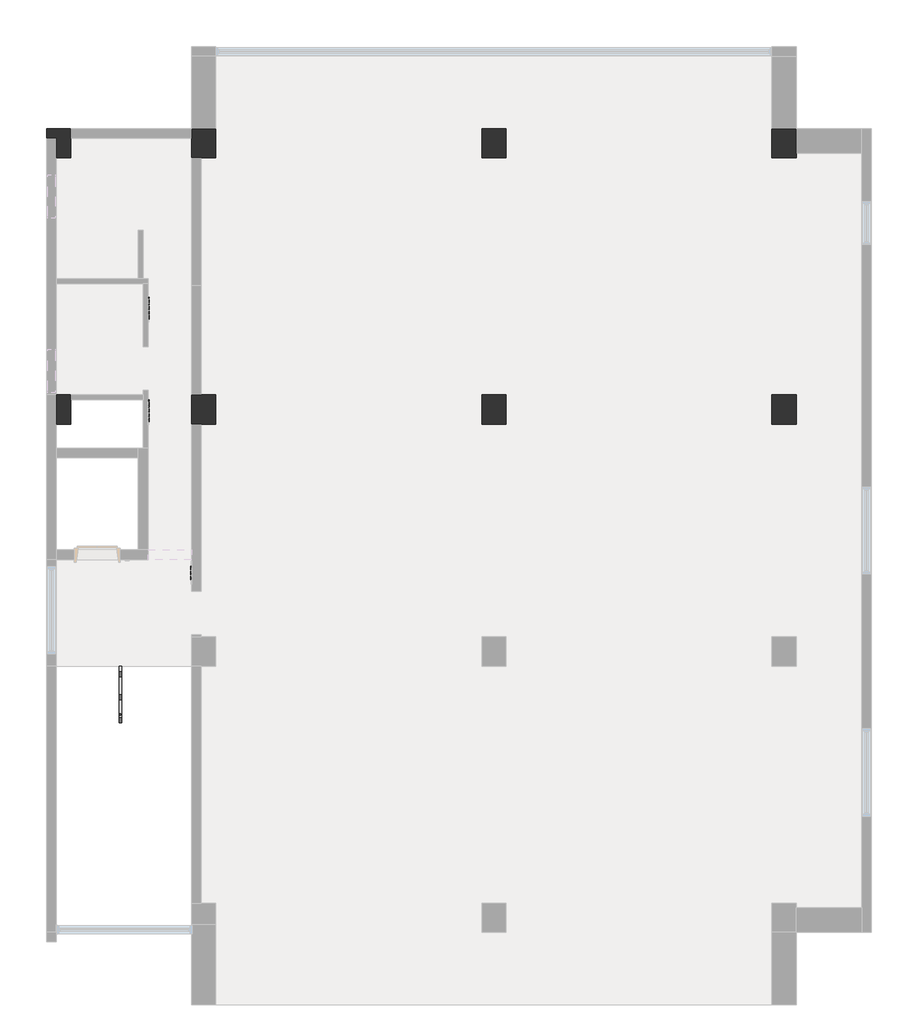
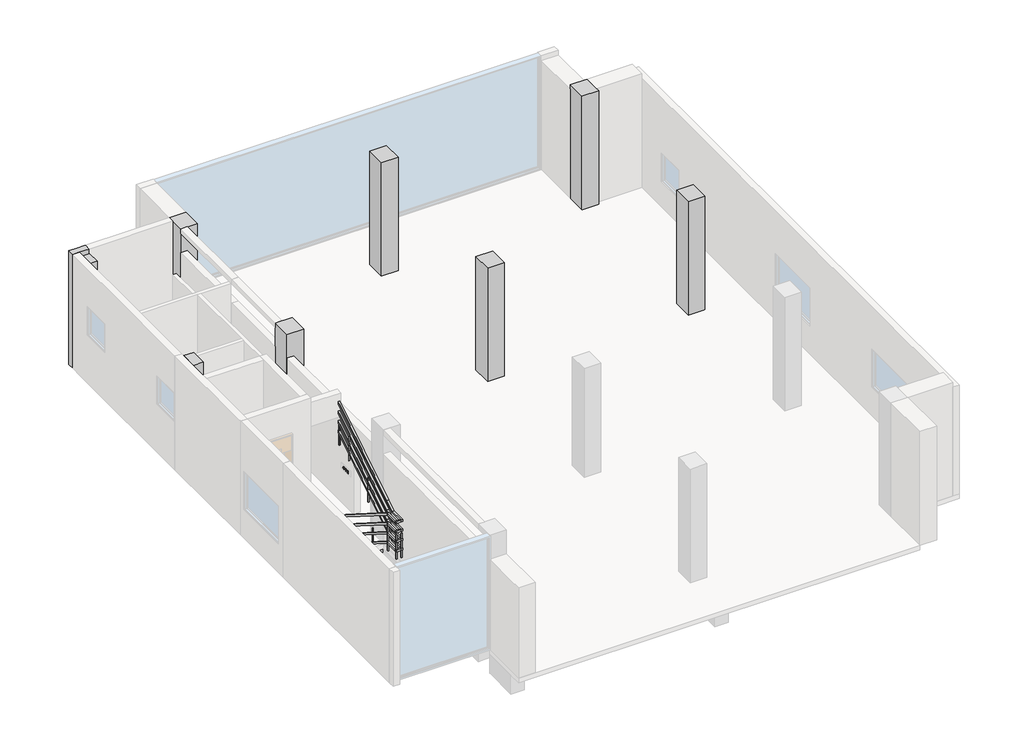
# One storey, part 2 of 2: 18 beams, 8 columns, 3 proxies, 1 railing.
"""IFC4 building model written with IfcOpenShell, lengths in millimetres."""

from ifc_helpers import new_model, si_unit, frame, origin, place, context, project, spatial, polyline, outline, extrude, faceted_brep, transform, mapped, element, save
from components import railing_68b9123f

model = new_model("IFC4")

# Units and contexts
model_context = context("Model", 3, world=origin())
ifc_project = project(units=[si_unit("LENGTHUNIT", "METRE", prefix="MILLI")], contexts=[model_context])

# Site, building, storey
site = spatial("IfcSite", under=ifc_project)
building = spatial("IfcBuilding", under=site)
storey = spatial("IfcBuildingStorey", under=building, Name="4층", Elevation=11100.0)

# Beams
placement = place(None, origin())
element("IfcBeam", 1, ObjectType="BM100-구조 보 : BM100-구조 보 400x600", at=placement, inside=storey, context=model_context, shape_type="Brep", body=[
    faceted_brep([(14750.0, 10300.0, 10950.0), (14750.0, 10700.0, 10950.0), (11963.2625647, 10700.0, 10950.0), (11663.2625647, 10700.0, 10950.0), (9250.0, 10700.0, 10950.0), (9250.0, 10300.0, 10950.0), (11663.2625647, 10300.0, 10950.0), (11963.2625647, 10300.0, 10950.0), (14750.0, 10300.0, 10350.0), (9250.0, 10300.0, 10350.0), (11663.2625647, 10300.0, 10350.0), (11963.2625647, 10300.0, 10350.0), (14750.0, 10700.0, 10350.0), (9250.0, 10700.0, 10350.0), (11663.2625647, 10700.0, 10350.0), (11963.2625647, 10700.0, 10350.0)], [[[0, 1, 2, 3, 4, 5, 6, 7]], [[8, 0, 7, 6, 5, 9, 10, 11]], [[12, 8, 11, 10, 9, 13, 14, 15]], [[1, 12, 15, 14, 13, 4, 3, 2]], [[1, 0, 8, 12]], [[5, 4, 13, 9]]]),
])
element("IfcBeam", 2, ObjectType="BM100-구조 보 : BM100-구조 보 400x600", at=placement, inside=storey, context=model_context, shape_type="Brep", body=[
    faceted_brep([(9250.0, 16300.0, 10950.0), (9250.0, 15900.0, 10950.0), (11663.2625647, 15900.0, 10950.0), (11963.2625647, 15900.0, 10950.0), (14750.0, 15900.0, 10950.0), (14750.0, 16300.0, 10950.0), (9250.0, 15900.0, 10350.0), (11663.2625647, 15900.0, 10350.0), (11963.2625647, 15900.0, 10350.0), (14750.0, 15900.0, 10350.0), (9250.0, 16300.0, 10350.0), (14750.0, 16300.0, 10350.0)], [[[0, 1, 2, 3, 4, 5]], [[1, 6, 7, 8, 9, 4, 3, 2]], [[6, 10, 11, 9, 8, 7]], [[10, 0, 5, 11]], [[1, 0, 10, 6]], [[5, 4, 9, 11]]]),
])
element("IfcBeam", 3, ObjectType="BM100-구조 보 : BM100-구조 보 400x600", at=placement, inside=storey, context=model_context, shape_type="SweptSolid", body=[
    extrude(outline(polyline([(15250.0, 5800.0), (14850.0, 5800.0), (14850.0, 10200.0), (15250.0, 10200.0), (15250.0, 5800.0)])), frame((0.0, 0.0, 10350.0), z_axis=(0.0, 0.0, 1.0), x_axis=(1.0, 0.0, 0.0)), (0.0, 0.0, 1.0), 600.0),
])
element("IfcBeam", 4, ObjectType="BM100-구조 보 : BM100-구조 보 300x600", at=placement, inside=storey, context=model_context, shape_type="SweptSolid", body=[
    extrude(outline(polyline([(11963.2625647, 5700.0), (11663.2625647, 5700.0), (11663.2625647, 10300.0), (11963.2625647, 10300.0), (11963.2625647, 5700.0)])), frame((0.0, 0.0, 10350.0), z_axis=(0.0, 0.0, 1.0), x_axis=(1.0, 0.0, 0.0)), (0.0, 0.0, 1.0), 600.0),
])
element("IfcBeam", 5, ObjectType="BM100-구조 보 : BM100-구조 보 300x600", at=placement, inside=storey, context=model_context, shape_type="SweptSolid", body=[
    extrude(outline(polyline([(11963.2625647, 10700.0), (11663.2625647, 10700.0), (11663.2625647, 15900.0), (11963.2625647, 15900.0), (11963.2625647, 10700.0)])), frame((0.0, 0.0, 10350.0), z_axis=(0.0, 0.0, 1.0), x_axis=(1.0, 0.0, 0.0)), (0.0, 0.0, 1.0), 600.0),
])
element("IfcBeam", 6, ObjectType="BM100-구조 보 : BM100-구조 보 400x600", at=placement, inside=storey, context=model_context, shape_type="SweptSolid", body=[
    extrude(outline(polyline([(9250.0, 5800.0), (8850.0, 5800.0), (8850.0, 10200.0), (9250.0, 10200.0), (9250.0, 5800.0)])), frame((0.0, 0.0, 10350.0), z_axis=(0.0, 0.0, 1.0), x_axis=(1.0, 0.0, 0.0)), (0.0, 0.0, 1.0), 600.0),
])
element("IfcBeam", 7, ObjectType="BM100-구조 보 : BM100-구조 보 400x600", at=placement, inside=storey, context=model_context, shape_type="SweptSolid", body=[
    extrude(outline(polyline([(9250.0, 10800.0), (8850.0, 10800.0), (8850.0, 15700.0), (9250.0, 15700.0), (9250.0, 10800.0)])), frame((0.0, 0.0, 10350.0), z_axis=(0.0, 0.0, 1.0), x_axis=(1.0, 0.0, 0.0)), (0.0, 0.0, 1.0), 600.0),
])
element("IfcBeam", 8, ObjectType="BM100-구조 보 : BM100-구조 보 400x600", at=placement, inside=storey, context=model_context, shape_type="Brep", body=[
    faceted_brep([(2750.0, 5800.0, 10950.0), (2950.0, 5800.0, 10950.0), (3150.0, 5800.0, 10950.0), (3150.0, 10200.0, 10950.0), (2950.0, 10200.0, 10950.0), (2750.0, 10200.0, 10950.0), (2750.0, 7600.0, 10950.0), (2750.0, 7400.0, 10950.0), (3150.0, 5800.0, 10350.0), (3150.0, 10200.0, 10350.0), (2950.0, 5800.0, 10350.0), (2750.0, 5800.0, 10350.0), (2750.0, 10200.0, 10350.0), (2950.0, 10200.0, 10350.0)], [[[0, 1, 2, 3, 4, 5, 6, 7]], [[2, 8, 9, 3]], [[8, 10, 11, 12, 13, 9]], [[11, 0, 7, 6, 5, 12]], [[2, 1, 0, 11, 10, 8]], [[5, 4, 3, 9, 13, 12]]]),
])
element("IfcBeam", 9, ObjectType="BM100-구조 보 : BM100-구조 보 400x600", at=placement, inside=storey, context=model_context, shape_type="Brep", body=[
    faceted_brep([(2750.0, 10800.0, 10950.0), (2950.0, 10800.0, 10950.0), (3150.0, 10800.0, 10950.0), (3150.0, 15700.0, 10950.0), (2950.0, 15700.0, 10950.0), (2750.0, 15700.0, 10950.0), (2750.0, 13060.0, 10950.0), (3150.0, 10800.0, 10350.0), (3150.0, 15700.0, 10350.0), (2950.0, 10800.0, 10350.0), (2750.0, 10800.0, 10350.0), (2750.0, 13060.0, 10350.0), (2750.0, 15700.0, 10350.0), (2950.0, 15700.0, 10350.0)], [[[0, 1, 2, 3, 4, 5, 6]], [[2, 7, 8, 3]], [[7, 9, 10, 11, 12, 13, 8]], [[10, 0, 6, 5, 12, 11]], [[2, 1, 0, 10, 9, 7]], [[5, 4, 3, 8, 13, 12]]]),
])
element("IfcBeam", 10, ObjectType="BM100-구조 보 : BM100-구조 보 400x600", at=placement, inside=storey, context=model_context, shape_type="Brep", body=[
    faceted_brep([(8750.0, 10300.0, 10950.0), (8750.0, 10700.0, 10950.0), (5950.2625647, 10700.0, 10950.0), (5650.2625647, 10700.0, 10950.0), (3250.0, 10700.0, 10950.0), (3250.0, 10300.0, 10950.0), (5663.2625647, 10300.0, 10950.0), (5963.2625647, 10300.0, 10950.0), (8750.0, 10300.0, 10350.0), (3250.0, 10300.0, 10350.0), (5663.2625647, 10300.0, 10350.0), (5963.2625647, 10300.0, 10350.0), (8750.0, 10700.0, 10350.0), (3250.0, 10700.0, 10350.0), (5650.2625647, 10700.0, 10350.0), (5950.2625647, 10700.0, 10350.0)], [[[0, 1, 2, 3, 4, 5, 6, 7]], [[8, 0, 7, 6, 5, 9, 10, 11]], [[12, 8, 11, 10, 9, 13, 14, 15]], [[1, 12, 15, 14, 13, 4, 3, 2]], [[1, 0, 8, 12]], [[5, 4, 13, 9]]]),
])
element("IfcBeam", 11, ObjectType="BM100-구조 보 : BM100-구조 보 300x600", at=placement, inside=storey, context=model_context, shape_type="SweptSolid", body=[
    extrude(outline(polyline([(5963.2625647, 5700.0), (5663.2625647, 5700.0), (5663.2625647, 10300.0), (5963.2625647, 10300.0), (5963.2625647, 5700.0)])), frame((0.0, 0.0, 10350.0), z_axis=(0.0, 0.0, 1.0), x_axis=(1.0, 0.0, 0.0)), (0.0, 0.0, 1.0), 600.0),
])
element("IfcBeam", 12, ObjectType="BM100-구조 보 : BM100-구조 보 300x600", at=placement, inside=storey, context=model_context, shape_type="SweptSolid", body=[
    extrude(outline(polyline([(5950.2625647, 10700.0), (5650.2625647, 10700.0), (5650.2625647, 15900.0), (5950.2625647, 15900.0), (5950.2625647, 10700.0)])), frame((0.0, 0.0, 10350.0), z_axis=(0.0, 0.0, 1.0), x_axis=(1.0, 0.0, 0.0)), (0.0, 0.0, 1.0), 600.0),
])
element("IfcBeam", 13, ObjectType="BM100-구조 보 : BM100-구조 보 400x600", at=placement, inside=storey, context=model_context, shape_type="Brep", body=[
    faceted_brep([(3250.0, 16300.0, 10950.0), (3250.0, 16100.0, 10950.0), (3250.0, 15900.0, 10950.0), (5650.2625647, 15900.0, 10950.0), (5950.2625647, 15900.0, 10950.0), (8750.0, 15900.0, 10950.0), (8750.0, 16300.0, 10950.0), (3250.0, 15900.0, 10350.0), (5650.2625647, 15900.0, 10350.0), (5950.2625647, 15900.0, 10350.0), (8750.0, 15900.0, 10350.0), (3250.0, 16300.0, 10350.0), (8750.0, 16300.0, 10350.0)], [[[0, 1, 2, 3, 4, 5, 6]], [[2, 7, 8, 9, 10, 5, 4, 3]], [[7, 11, 12, 10, 9, 8]], [[11, 0, 6, 12]], [[0, 11, 7, 2, 1]], [[6, 5, 10, 12]]]),
])
element("IfcBeam", 14, ObjectType="BM100-구조 보 : BM100-구조 보 400x600", at=placement, inside=storey, context=model_context, shape_type="SweptSolid", body=[
    extrude(outline(polyline([(14850.0, 15700.0), (15250.0, 15700.0), (15250.0, 10800.0), (14850.0, 10800.0), (14850.0, 15700.0)])), frame((0.0, 0.0, 10350.0), z_axis=(0.0, 0.0, 1.0), x_axis=(1.0, 0.0, 0.0)), (0.0, 0.0, 1.0), 600.0),
])
element("IfcBeam", 15, ObjectType="BM100-구조 보 : BM100-구조 보 400x600", at=placement, inside=storey, context=model_context, shape_type="SweptSolid", body=[
    extrude(outline(polyline([(15250.0, 10300.0), (15250.0, 10700.0), (16600.0, 10700.0), (16600.0, 10300.0), (15250.0, 10300.0)])), frame((0.0, 0.0, 10350.0), z_axis=(0.0, 0.0, 1.0), x_axis=(1.0, 0.0, 0.0)), (0.0, 0.0, 1.0), 600.0),
])
element("IfcBeam", 16, ObjectType="BM100-구조 보 : BM100-구조 보 400x600", at=placement, inside=storey, context=model_context, shape_type="Brep", body=[
    faceted_brep([(8850.0, 17800.0, 10950.0), (8850.0, 17400.0, 10950.0), (9250.0, 17400.0, 10950.0), (14750.0, 17400.0, 10950.0), (14750.0, 17800.0, 10950.0), (8850.0, 17400.0, 10350.0), (9250.0, 17400.0, 10350.0), (14750.0, 17400.0, 10350.0), (8850.0, 17800.0, 10350.0), (14750.0, 17800.0, 10350.0)], [[[0, 1, 2, 3, 4]], [[1, 5, 6, 7, 3, 2]], [[5, 8, 9, 7, 6]], [[8, 0, 4, 9]], [[1, 0, 8, 5]], [[4, 3, 7, 9]]]),
])
element("IfcBeam", 17, ObjectType="BM100-구조 보 : BM100-구조 보 400x600", at=placement, inside=storey, context=model_context, shape_type="SweptSolid", body=[
    extrude(outline(polyline([(9250.0, 16300.0), (8850.0, 16300.0), (8850.0, 17400.0), (9250.0, 17400.0), (9250.0, 16300.0)])), frame((0.0, 0.0, 10350.0), z_axis=(0.0, 0.0, 1.0), x_axis=(1.0, 0.0, 0.0)), (0.0, 0.0, 1.0), 600.0),
])
element("IfcBeam", 18, ObjectType="BM100-구조 보 : BM100-구조 보 400x600", at=placement, inside=storey, context=model_context, shape_type="SweptSolid", body=[
    extrude(outline(polyline([(8850.0, 17800.0), (8850.0, 17400.0), (3250.0, 17400.0), (3250.0, 17800.0), (8850.0, 17800.0)])), frame((0.0, 0.0, 10350.0), z_axis=(0.0, 0.0, 1.0), x_axis=(1.0, 0.0, 0.0)), (0.0, 0.0, 1.0), 600.0),
])

# Proxies
element("IfcBuildingElementProxy", 19, Name="600 mm Arial", ObjectType="600 mm Arial", at=placement, inside=storey, context=model_context, shape_type="SweptSolid", body=[
    extrude(outline(polyline([(10297.787199, 12317.7990058), (10300.6391665, 12317.0436198), (10301.7028733, 12315.3324394), (10300.7933269, 12313.0508654), (10298.1726, 12311.8792463), (10253.0652656, 12311.8792463), (10249.42708, 12315.3324394), (10253.0652656, 12317.7990058), (10297.787199, 12317.7990058)])), frame((1860.0, 0.0, 0.0), z_axis=(1.0, 0.0, 0.0), x_axis=(0.0, 1.0, 0.0)), (0.0, 0.0, 1.0), 10.0),
    extrude(outline(polyline([(10288.1213416, 12328.6518983), (10291.8366074, 12326.1853318), (10288.3063341, 12322.7321388), (10261.9449049, 12322.7321388), (10258.3067193, 12326.1853318), (10261.9449049, 12328.6518983), (10288.1213416, 12328.6518983)])), frame((1860.0, 0.0, 0.0), z_axis=(1.0, 0.0, 0.0), x_axis=(0.0, 1.0, 0.0)), (0.0, 0.0, 1.0), 10.0),
    extrude(outline(polyline([(10275.711429, 12306.9461133), (10292.0524319, 12302.2133889), (10297.771783, 12291.7921456), (10292.067848, 12280.4151077), (10279.0258777, 12276.3955749), (10279.0258777, 12263.5345434), (10288.8767276, 12264.8140747), (10301.0399835, 12268.4676763), (10305.6031315, 12267.0802327), (10303.5836302, 12262.640413), (10278.9025494, 12257.6147838), (10248.8104384, 12256.6281572), (10245.6501501, 12257.6456159), (10244.4939471, 12260.1275984), (10245.4497416, 12261.869611), (10248.3325412, 12262.5479168), (10258.3837995, 12262.640413), (10271.132865, 12262.9949819), (10271.132865, 12276.7526908), (10258.9696091, 12280.4151077), (10253.3735864, 12291.7921456), (10258.9696091, 12302.2133889), (10275.711429, 12306.9461133)]), holes=[polyline([(10275.711429, 12301.0263538), (10264.5347997, 12298.0356419), (10261.2665991, 12291.7921456), (10264.5502157, 12284.5774386), (10275.711429, 12281.293822), (10286.5643215, 12284.5774386), (10289.8787702, 12291.7921456), (10286.5951536, 12298.051058), (10275.711429, 12301.0263538)])]), frame((1860.0, 0.0, 0.0), z_axis=(1.0, 0.0, 0.0), x_axis=(0.0, 1.0, 0.0)), (0.0, 0.0, 1.0), 10.0),
    extrude(outline(polyline([(10315.5310616, 12293.1333411), (10324.7036057, 12293.1333411), (10327.3243325, 12292.4242032), (10328.3417912, 12290.7130227), (10327.5709892, 12288.3852006), (10325.1815029, 12287.2135815), (10315.5310616, 12287.2135815), (10315.5310616, 12254.4236634), (10314.159034, 12251.6796082), (10311.5383071, 12250.7083977), (10308.8713321, 12251.7104403), (10307.6380489, 12254.5624078), (10307.6380489, 12328.9448031), (10308.8867481, 12330.9488884), (10311.5383071, 12331.6117781), (10314.1282019, 12330.9334723), (10315.5310616, 12329.0218833), (10315.5310616, 12293.1333411)])), frame((1860.0, 0.0, 0.0), z_axis=(1.0, 0.0, 0.0), x_axis=(0.0, 1.0, 0.0)), (0.0, 0.0, 1.0), 10.0),
    extrude(outline(polyline([(10414.1937206, 12308.9193665), (10423.3662647, 12308.9193665), (10425.9869916, 12308.2410607), (10427.0044502, 12306.4990482), (10426.2182322, 12304.1249779), (10423.7516657, 12302.999607), (10414.1937206, 12302.999607), (10414.1937206, 12285.0861679), (10412.821693, 12282.1879523), (10410.2009661, 12281.293822), (10407.5339911, 12282.1879523), (10406.3007079, 12285.1478321), (10406.3007079, 12329.0372993), (10410.2009661, 12331.6117781), (10414.1937206, 12329.1760437), (10414.1937206, 12308.9193665)])), frame((1860.0, 0.0, 0.0), z_axis=(1.0, 0.0, 0.0), x_axis=(0.0, 1.0, 0.0)), (0.0, 0.0, 1.0), 10.0),
    extrude(outline(polyline([(10383.6545444, 12280.3071954), (10407.2873345, 12276.0832003), (10413.207094, 12271.4699502), (10415.1803472, 12265.8623655), (10413.207094, 12259.7460514), (10407.2873345, 12255.024889), (10383.6545444, 12250.7083977), (10359.9138421, 12255.024889), (10354.0056446, 12259.7383434), (10352.0362454, 12265.8623655), (10354.0056446, 12271.4699502), (10359.9138421, 12276.0832003), (10383.6545444, 12280.3071954)]), holes=[polyline([(10383.6545444, 12274.3874359), (10365.1707119, 12271.8437892), (10359.9292581, 12265.9086136), (10365.1707119, 12259.3259643), (10383.6545444, 12256.6281572), (10401.9379684, 12259.3259643), (10407.2873345, 12265.9086136), (10401.9379684, 12271.8437892), (10383.6545444, 12274.3874359)])]), frame((1860.0, 0.0, 0.0), z_axis=(1.0, 0.0, 0.0), x_axis=(0.0, 1.0, 0.0)), (0.0, 0.0, 1.0), 10.0),
    extrude(outline(polyline([(10395.5865598, 12329.6385249), (10398.9626726, 12327.2182066), (10395.5865598, 12323.7187654), (10377.6885368, 12323.7187654), (10377.6885368, 12321.7609282), (10379.3804472, 12312.3802676), (10384.4561785, 12304.6182912), (10399.1784972, 12295.1065943), (10401.382991, 12293.6112383), (10401.1363343, 12291.1138398), (10398.8855924, 12289.2484989), (10395.5248956, 12289.4643234), (10381.4038025, 12298.1898023), (10373.603286, 12309.3201836), (10366.2035866, 12297.6348249), (10351.1883632, 12288.2156242), (10348.2593155, 12288.3543685), (10346.2398142, 12290.2351255), (10345.9931576, 12292.6091957), (10348.1976513, 12294.1199677), (10363.4595314, 12304.2791383), (10368.2115259, 12312.0642388), (10369.795524, 12321.5451037), (10369.795524, 12323.7187654), (10351.8975011, 12323.7187654), (10348.3363957, 12327.2182066), (10351.9899973, 12329.6385249), (10395.5865598, 12329.6385249)])), frame((1860.0, 0.0, 0.0), z_axis=(1.0, 0.0, 0.0), x_axis=(0.0, 1.0, 0.0)), (0.0, 0.0, 1.0), 10.0),
    extrude(outline(polyline([(10515.8162594, 12292.8404363), (10514.4442318, 12290.065549), (10511.869753, 12289.1868347), (10509.1565299, 12290.0809651), (10507.9232467, 12292.8404363), (10507.9232467, 12328.9448031), (10509.1565299, 12330.9488884), (10511.869753, 12331.6117781), (10514.4288158, 12330.9488884), (10515.8162594, 12329.0527154), (10515.8162594, 12292.8404363)])), frame((1860.0, 0.0, 0.0), z_axis=(1.0, 0.0, 0.0), x_axis=(0.0, 1.0, 0.0)), (0.0, 0.0, 1.0), 10.0),
    extrude(outline(polyline([(10506.150402, 12285.2403284), (10513.2571967, 12283.3441554), (10515.8162594, 12278.1181177), (10515.8162594, 12274.0328669), (10513.365109, 12268.5293405), (10507.1986928, 12266.4944231), (10462.0296942, 12266.4944231), (10459.9639448, 12266.0011098), (10459.5785438, 12264.2590973), (10459.5785438, 12260.3280069), (10460.0256089, 12258.2160094), (10461.9063659, 12257.6147838), (10513.8738383, 12257.6147838), (10517.7740965, 12255.1944655), (10516.8799662, 12252.8049792), (10514.2438233, 12251.6950243), (10459.9947769, 12251.6950243), (10454.0904334, 12253.8378539), (10451.685531, 12259.6805332), (10451.685531, 12265.4153003), (10453.9979371, 12270.5334257), (10459.8406165, 12272.4141827), (10505.2871038, 12272.4141827), (10507.3528532, 12272.9691601), (10507.9232467, 12274.834501), (10507.9232467, 12277.3318996), (10507.4607655, 12278.8580876), (10505.2100236, 12279.3205688), (10455.5241251, 12279.3205688), (10451.685531, 12282.7891779), (10455.5395412, 12285.2403284), (10506.150402, 12285.2403284)])), frame((1860.0, 0.0, 0.0), z_axis=(1.0, 0.0, 0.0), x_axis=(0.0, 1.0, 0.0)), (0.0, 0.0, 1.0), 10.0),
    extrude(outline(polyline([(10465.4983033, 12326.7865574), (10466.7624186, 12328.9756352), (10469.3985615, 12329.6385249), (10472.0038724, 12328.9756352), (10473.391316, 12326.7865574), (10472.63593, 12321.0826225), (10470.9555816, 12315.6407602), (10484.5062812, 12306.4682161), (10495.1433491, 12294.3666243), (10495.8987351, 12292.2083786), (10494.4342113, 12289.7263961), (10491.7364042, 12289.0789224), (10488.9461009, 12290.7901029), (10479.3573237, 12302.0283964), (10468.5506793, 12310.1526498), (10461.1201478, 12299.2380931), (10449.1573004, 12288.0306317), (10446.1049244, 12287.2598297), (10443.8233504, 12288.7089375), (10443.1758767, 12291.206336), (10445.1491299, 12293.117925), (10460.7501628, 12310.8463716), (10465.4983033, 12326.7865574)])), frame((1860.0, 0.0, 0.0), z_axis=(1.0, 0.0, 0.0), x_axis=(0.0, 1.0, 0.0)), (0.0, 0.0, 1.0), 10.0),
    extrude(outline(polyline([(10556.6225185, 12335.2345476), (10559.3665737, 12336.4678308), (10562.0797969, 12335.9899336), (10563.7601453, 12334.2787531), (10563.1435037, 12331.3497054), (10553.4313982, 12312.4804719), (10550.3481901, 12291.6379851), (10553.1539094, 12270.2713531), (10562.9893433, 12251.957097), (10564.0684661, 12249.290122), (10562.6810224, 12246.5460668), (10559.7673908, 12245.5286081), (10556.6995987, 12247.2089565), (10545.5846336, 12267.8818668), (10542.4551773, 12291.6379851), (10545.7850421, 12314.052908), (10556.6225185, 12335.2345476)])), frame((1860.0, 0.0, 0.0), z_axis=(1.0, 0.0, 0.0), x_axis=(0.0, 1.0, 0.0)), (0.0, 0.0, 1.0), 10.0),
    extrude(outline(polyline([(10604.7513969, 12328.6518983), (10614.5598527, 12326.0350255), (10621.7552895, 12318.1844068), (10625.3973917, 12308.5766763), (10626.4263498, 12310.2143139), (10629.4324777, 12310.8926197), (10644.0777161, 12310.8926197), (10644.0777161, 12328.8060587), (10645.2955833, 12330.8563921), (10648.0242225, 12331.6117781), (10650.6141173, 12330.9488884), (10651.9707289, 12328.8368908), (10651.9707289, 12254.6549041), (10650.6449494, 12251.7258564), (10648.0242225, 12250.7083977), (10645.2647513, 12251.7412724), (10644.0777161, 12254.6857361), (10644.0777161, 12278.3339422), (10629.2629013, 12278.3339422), (10625.8552008, 12280.4777179), (10621.7552895, 12269.6547114), (10614.4211083, 12261.3647357), (10604.7513969, 12258.6014104), (10594.9082551, 12261.3647357), (10587.4545995, 12269.6547114), (10583.3038306, 12280.6270782), (10581.920241, 12294.0274714), (10583.3038306, 12307.2197481), (10587.4545995, 12318.1844068), (10594.7695107, 12326.0350255), (10604.7513969, 12328.6518983)]), holes=[polyline([(10626.2062694, 12283.4271544), (10629.2629013, 12284.2537018), (10644.0777161, 12284.2537018), (10644.0777161, 12304.9728602), (10629.5249739, 12304.9728602), (10625.9314286, 12307.0731936), (10627.3050641, 12294.0274714), (10626.2062694, 12283.4271544)]), polyline([(10604.7051488, 12322.7321388), (10598.4115503, 12320.6432653), (10593.6210157, 12314.3766448), (10589.8132537, 12294.0737195), (10593.6210157, 12273.5241376), (10598.5425866, 12266.7719119), (10604.7051488, 12264.52117), (10610.7174046, 12266.7719119), (10615.5888734, 12273.5241376), (10619.4120514, 12294.0737195), (10615.5888734, 12314.3766448), (10610.8484409, 12320.6432653), (10604.7051488, 12322.7321388)])]), frame((1860.0, 0.0, 0.0), z_axis=(1.0, 0.0, 0.0), x_axis=(0.0, 1.0, 0.0)), (0.0, 0.0, 1.0), 10.0),
    extrude(outline(polyline([(10683.1265467, 12335.2345476), (10693.902359, 12314.052908), (10697.355552, 12291.6379851), (10694.1027675, 12267.8818668), (10683.0802985, 12247.2089565), (10679.9200102, 12245.5286081), (10676.9909626, 12246.5460668), (10675.618935, 12249.290122), (10676.8059701, 12251.957097), (10686.5334916, 12270.2713531), (10689.4625393, 12291.6379851), (10686.2560029, 12312.4804719), (10676.6363936, 12331.3342894), (10675.9118397, 12334.2787531), (10677.6076042, 12335.9899336), (10680.2899952, 12336.4678308), (10683.1265467, 12335.2345476)])), frame((1860.0, 0.0, 0.0), z_axis=(1.0, 0.0, 0.0), x_axis=(0.0, 1.0, 0.0)), (0.0, 0.0, 1.0), 10.0),
])
element("IfcBuildingElementProxy", 20, Name="600 mm Arial", ObjectType="600 mm Arial", at=placement, inside=storey, context=model_context, shape_type="SweptSolid", body=[
    extrude(outline(polyline([(12417.787199, 12317.7990058), (12420.6391665, 12317.0436198), (12421.7028733, 12315.3324394), (12420.7933269, 12313.0508654), (12418.1726, 12311.8792463), (12373.0652656, 12311.8792463), (12369.42708, 12315.3324394), (12373.0652656, 12317.7990058), (12417.787199, 12317.7990058)])), frame((1860.0, 0.0, 0.0), z_axis=(1.0, 0.0, 0.0), x_axis=(0.0, 1.0, 0.0)), (0.0, 0.0, 1.0), 10.0),
    extrude(outline(polyline([(12408.1213416, 12328.6518983), (12411.8366074, 12326.1853318), (12408.3063341, 12322.7321388), (12381.9449049, 12322.7321388), (12378.3067193, 12326.1853318), (12381.9449049, 12328.6518983), (12408.1213416, 12328.6518983)])), frame((1860.0, 0.0, 0.0), z_axis=(1.0, 0.0, 0.0), x_axis=(0.0, 1.0, 0.0)), (0.0, 0.0, 1.0), 10.0),
    extrude(outline(polyline([(12395.711429, 12306.9461133), (12412.0524319, 12302.2133889), (12417.771783, 12291.7921456), (12412.067848, 12280.4151077), (12399.0258777, 12276.3955749), (12399.0258777, 12263.5345434), (12408.8767276, 12264.8140747), (12421.0399835, 12268.4676763), (12425.6031315, 12267.0802327), (12423.5836302, 12262.640413), (12398.9025494, 12257.6147838), (12368.8104384, 12256.6281572), (12365.6501501, 12257.6456159), (12364.4939471, 12260.1275984), (12365.4497416, 12261.869611), (12368.3325412, 12262.5479168), (12378.3837995, 12262.640413), (12391.132865, 12262.9949819), (12391.132865, 12276.7526908), (12378.9696091, 12280.4151077), (12373.3735864, 12291.7921456), (12378.9696091, 12302.2133889), (12395.711429, 12306.9461133)]), holes=[polyline([(12395.711429, 12301.0263538), (12384.5347997, 12298.0356419), (12381.2665991, 12291.7921456), (12384.5502157, 12284.5774386), (12395.711429, 12281.293822), (12406.5643215, 12284.5774386), (12409.8787702, 12291.7921456), (12406.5951536, 12298.051058), (12395.711429, 12301.0263538)])]), frame((1860.0, 0.0, 0.0), z_axis=(1.0, 0.0, 0.0), x_axis=(0.0, 1.0, 0.0)), (0.0, 0.0, 1.0), 10.0),
    extrude(outline(polyline([(12435.5310616, 12293.1333411), (12444.7036057, 12293.1333411), (12447.3243325, 12292.4242032), (12448.3417912, 12290.7130227), (12447.5709892, 12288.3852006), (12445.1815029, 12287.2135815), (12435.5310616, 12287.2135815), (12435.5310616, 12254.4236634), (12434.159034, 12251.6796082), (12431.5383071, 12250.7083977), (12428.8713321, 12251.7104403), (12427.6380489, 12254.5624078), (12427.6380489, 12328.9448031), (12428.8867481, 12330.9488884), (12431.5383071, 12331.6117781), (12434.1282019, 12330.9334723), (12435.5310616, 12329.0218833), (12435.5310616, 12293.1333411)])), frame((1860.0, 0.0, 0.0), z_axis=(1.0, 0.0, 0.0), x_axis=(0.0, 1.0, 0.0)), (0.0, 0.0, 1.0), 10.0),
    extrude(outline(polyline([(12534.1937206, 12308.9193665), (12543.3662647, 12308.9193665), (12545.9869916, 12308.2410607), (12547.0044502, 12306.4990482), (12546.2182322, 12304.1249779), (12543.7516657, 12302.999607), (12534.1937206, 12302.999607), (12534.1937206, 12285.0861679), (12532.821693, 12282.1879523), (12530.2009661, 12281.293822), (12527.5339911, 12282.1879523), (12526.3007079, 12285.1478321), (12526.3007079, 12329.0372993), (12530.2009661, 12331.6117781), (12534.1937206, 12329.1760437), (12534.1937206, 12308.9193665)])), frame((1860.0, 0.0, 0.0), z_axis=(1.0, 0.0, 0.0), x_axis=(0.0, 1.0, 0.0)), (0.0, 0.0, 1.0), 10.0),
    extrude(outline(polyline([(12503.6545444, 12280.3071954), (12527.2873345, 12276.0832003), (12533.207094, 12271.4699502), (12535.1803472, 12265.8623655), (12533.207094, 12259.7460514), (12527.2873345, 12255.024889), (12503.6545444, 12250.7083977), (12479.9138421, 12255.024889), (12474.0056446, 12259.7383434), (12472.0362454, 12265.8623655), (12474.0056446, 12271.4699502), (12479.9138421, 12276.0832003), (12503.6545444, 12280.3071954)]), holes=[polyline([(12503.6545444, 12274.3874359), (12485.1707119, 12271.8437892), (12479.9292581, 12265.9086136), (12485.1707119, 12259.3259643), (12503.6545444, 12256.6281572), (12521.9379684, 12259.3259643), (12527.2873345, 12265.9086136), (12521.9379684, 12271.8437892), (12503.6545444, 12274.3874359)])]), frame((1860.0, 0.0, 0.0), z_axis=(1.0, 0.0, 0.0), x_axis=(0.0, 1.0, 0.0)), (0.0, 0.0, 1.0), 10.0),
    extrude(outline(polyline([(12515.5865598, 12329.6385249), (12518.9626726, 12327.2182066), (12515.5865598, 12323.7187654), (12497.6885368, 12323.7187654), (12497.6885368, 12321.7609282), (12499.3804472, 12312.3802676), (12504.4561785, 12304.6182912), (12519.1784972, 12295.1065943), (12521.382991, 12293.6112383), (12521.1363343, 12291.1138398), (12518.8855924, 12289.2484989), (12515.5248956, 12289.4643234), (12501.4038025, 12298.1898023), (12493.603286, 12309.3201836), (12486.2035866, 12297.6348249), (12471.1883632, 12288.2156242), (12468.2593155, 12288.3543685), (12466.2398142, 12290.2351255), (12465.9931576, 12292.6091957), (12468.1976513, 12294.1199677), (12483.4595314, 12304.2791383), (12488.2115259, 12312.0642388), (12489.795524, 12321.5451037), (12489.795524, 12323.7187654), (12471.8975011, 12323.7187654), (12468.3363957, 12327.2182066), (12471.9899973, 12329.6385249), (12515.5865598, 12329.6385249)])), frame((1860.0, 0.0, 0.0), z_axis=(1.0, 0.0, 0.0), x_axis=(0.0, 1.0, 0.0)), (0.0, 0.0, 1.0), 10.0),
    extrude(outline(polyline([(12635.8162594, 12292.8404363), (12634.4442318, 12290.065549), (12631.869753, 12289.1868347), (12629.1565299, 12290.0809651), (12627.9232467, 12292.8404363), (12627.9232467, 12328.9448031), (12629.1565299, 12330.9488884), (12631.869753, 12331.6117781), (12634.4288158, 12330.9488884), (12635.8162594, 12329.0527154), (12635.8162594, 12292.8404363)])), frame((1860.0, 0.0, 0.0), z_axis=(1.0, 0.0, 0.0), x_axis=(0.0, 1.0, 0.0)), (0.0, 0.0, 1.0), 10.0),
    extrude(outline(polyline([(12626.150402, 12285.2403284), (12633.2571967, 12283.3441554), (12635.8162594, 12278.1181177), (12635.8162594, 12274.0328669), (12633.365109, 12268.5293405), (12627.1986928, 12266.4944231), (12582.0296942, 12266.4944231), (12579.9639448, 12266.0011098), (12579.5785438, 12264.2590973), (12579.5785438, 12260.3280069), (12580.0256089, 12258.2160094), (12581.9063659, 12257.6147838), (12633.8738383, 12257.6147838), (12637.7740965, 12255.1944655), (12636.8799662, 12252.8049792), (12634.2438233, 12251.6950243), (12579.9947769, 12251.6950243), (12574.0904334, 12253.8378539), (12571.685531, 12259.6805332), (12571.685531, 12265.4153003), (12573.9979371, 12270.5334257), (12579.8406165, 12272.4141827), (12625.2871038, 12272.4141827), (12627.3528532, 12272.9691601), (12627.9232467, 12274.834501), (12627.9232467, 12277.3318996), (12627.4607655, 12278.8580876), (12625.2100236, 12279.3205688), (12575.5241251, 12279.3205688), (12571.685531, 12282.7891779), (12575.5395412, 12285.2403284), (12626.150402, 12285.2403284)])), frame((1860.0, 0.0, 0.0), z_axis=(1.0, 0.0, 0.0), x_axis=(0.0, 1.0, 0.0)), (0.0, 0.0, 1.0), 10.0),
    extrude(outline(polyline([(12585.4983033, 12326.7865574), (12586.7624186, 12328.9756352), (12589.3985615, 12329.6385249), (12592.0038724, 12328.9756352), (12593.391316, 12326.7865574), (12592.63593, 12321.0826225), (12590.9555816, 12315.6407602), (12604.5062812, 12306.4682161), (12615.1433491, 12294.3666243), (12615.8987351, 12292.2083786), (12614.4342113, 12289.7263961), (12611.7364042, 12289.0789224), (12608.9461009, 12290.7901029), (12599.3573237, 12302.0283964), (12588.5506793, 12310.1526498), (12581.1201478, 12299.2380931), (12569.1573004, 12288.0306317), (12566.1049244, 12287.2598297), (12563.8233504, 12288.7089375), (12563.1758767, 12291.206336), (12565.1491299, 12293.117925), (12580.7501628, 12310.8463716), (12585.4983033, 12326.7865574)])), frame((1860.0, 0.0, 0.0), z_axis=(1.0, 0.0, 0.0), x_axis=(0.0, 1.0, 0.0)), (0.0, 0.0, 1.0), 10.0),
    extrude(outline(polyline([(12676.6225185, 12335.2345476), (12679.3665737, 12336.4678308), (12682.0797969, 12335.9899336), (12683.7601453, 12334.2787531), (12683.1435037, 12331.3497054), (12673.4313982, 12312.4804719), (12670.3481901, 12291.6379851), (12673.1539094, 12270.2713531), (12682.9893433, 12251.957097), (12684.0684661, 12249.290122), (12682.6810224, 12246.5460668), (12679.7673908, 12245.5286081), (12676.6995987, 12247.2089565), (12665.5846336, 12267.8818668), (12662.4551773, 12291.6379851), (12665.7850421, 12314.052908), (12676.6225185, 12335.2345476)])), frame((1860.0, 0.0, 0.0), z_axis=(1.0, 0.0, 0.0), x_axis=(0.0, 1.0, 0.0)), (0.0, 0.0, 1.0), 10.0),
    extrude(outline(polyline([(12702.9068676, 12326.8019735), (12704.1401508, 12328.8831389), (12706.8071258, 12329.6385249), (12709.4124366, 12328.9756352), (12710.7998803, 12326.8944697), (12710.7998803, 12302.5525418), (12711.9406673, 12298.4981232), (12715.7792613, 12297.0798474), (12734.3710062, 12297.7581532), (12752.1919489, 12299.9934791), (12755.4909816, 12299.947231), (12757.1250819, 12298.451875), (12756.8321771, 12296.0161406), (12754.3193625, 12294.1507997), (12735.3730488, 12291.8538097), (12713.75976, 12291.1600879), (12705.758835, 12294.4899526), (12702.9068676, 12302.4446295), (12702.9068676, 12326.8019735)])), frame((1860.0, 0.0, 0.0), z_axis=(1.0, 0.0, 0.0), x_axis=(0.0, 1.0, 0.0)), (0.0, 0.0, 1.0), 10.0),
    extrude(outline(polyline([(12769.0108491, 12308.9193665), (12778.3838017, 12308.9193665), (12781.8369948, 12306.4990482), (12778.3838017, 12302.999607), (12769.0108491, 12302.999607), (12769.0108491, 12291.0675917), (12767.6542375, 12288.2002081), (12765.0180946, 12287.2135815), (12762.3511196, 12288.2002081), (12761.1178364, 12291.0367596), (12761.1178364, 12329.0527154), (12765.0180946, 12331.6117781), (12769.0108491, 12329.0835475), (12769.0108491, 12308.9193665)])), frame((1860.0, 0.0, 0.0), z_axis=(1.0, 0.0, 0.0), x_axis=(0.0, 1.0, 0.0)), (0.0, 0.0, 1.0), 10.0),
    extrude(outline(polyline([(12759.3912398, 12281.293822), (12766.3284581, 12279.4593132), (12769.0108491, 12274.5570123), (12769.0108491, 12261.0833929), (12766.3592901, 12254.7319843), (12759.7766409, 12252.6816509), (12717.8450108, 12252.6816509), (12710.1369905, 12255.0557211), (12707.8400005, 12261.5612902), (12707.8400005, 12274.1716113), (12710.2449028, 12279.2743207), (12716.5963115, 12281.293822), (12759.3912398, 12281.293822)]), holes=[polyline([(12761.1178364, 12273.0924885), (12760.4703627, 12274.8807492), (12757.8342198, 12275.3740624), (12718.6312288, 12275.3740624), (12716.1646624, 12274.7728369), (12715.7330132, 12272.907496), (12715.7330132, 12262.0546035), (12716.3188228, 12259.3722124), (12719.0166298, 12258.6014104), (12758.0192122, 12258.6014104), (12760.4703627, 12259.2797162), (12761.1178364, 12261.6692025), (12761.1178364, 12273.0924885)])]), frame((1860.0, 0.0, 0.0), z_axis=(1.0, 0.0, 0.0), x_axis=(0.0, 1.0, 0.0)), (0.0, 0.0, 1.0), 10.0),
    extrude(outline(polyline([(12803.1265467, 12335.2345476), (12813.902359, 12314.052908), (12817.355552, 12291.6379851), (12814.1027675, 12267.8818668), (12803.0802985, 12247.2089565), (12799.9200102, 12245.5286081), (12796.9909626, 12246.5460668), (12795.618935, 12249.290122), (12796.8059701, 12251.957097), (12806.5334916, 12270.2713531), (12809.4625393, 12291.6379851), (12806.2560029, 12312.4804719), (12796.6363936, 12331.3342894), (12795.9118397, 12334.2787531), (12797.6076042, 12335.9899336), (12800.2899952, 12336.4678308), (12803.1265467, 12335.2345476)])), frame((1860.0, 0.0, 0.0), z_axis=(1.0, 0.0, 0.0), x_axis=(0.0, 1.0, 0.0)), (0.0, 0.0, 1.0), 10.0),
])
element("IfcBuildingElementProxy", 21, Name="600 mm Arial", ObjectType="600 mm Arial", at=placement, inside=storey, context=model_context, shape_type="SweptSolid", body=[
    extrude(outline(polyline([(7188.5637707, 12286.2433766), (7189.7662218, 12292.1477201), (7201.4361645, 12292.1477201), (7202.5615354, 12322.7331444), (7211.3178464, 12321.6540216), (7210.1924755, 12243.8030172), (7201.4361645, 12244.9129721), (7201.4361645, 12285.241334), (7188.5637707, 12286.2433766)])), frame((2730.0, 0.0, 0.0), z_axis=(1.0, 0.0, 0.0), x_axis=(0.0, 1.0, 0.0)), (0.0, 0.0, 1.0), 10.0),
    extrude(outline(polyline([(7258.8609152, 12262.5489224), (7254.189855, 12267.0581142), (7249.5958749, 12272.7235091), (7245.3872959, 12279.2059541), (7241.8724386, 12286.2433766), (7238.951099, 12280.5163176), (7235.0508407, 12274.7584264), (7230.6264371, 12269.5555128), (7226.2405736, 12265.5088022), (7223.4965184, 12265.6783786), (7219.8891649, 12269.8715416), (7220.0741574, 12272.4151883), (7225.6085159, 12277.4562335), (7230.7960135, 12283.9078465), (7234.9968846, 12291.2073416), (7237.6638596, 12298.7920335), (7236.5461966, 12307.5020964), (7237.3247067, 12318.5245654), (7246.1580979, 12317.5071067), (7246.2505941, 12310.3386479), (7246.8518197, 12303.8176627), (7248.0080227, 12297.6358305), (7249.7654514, 12291.5002464), (7256.11686, 12279.5913551), (7265.643973, 12269.4553085), (7265.9060457, 12266.6341731), (7261.8670431, 12262.6414186), (7258.8609152, 12262.5489224)])), frame((2730.0, 0.0, 0.0), z_axis=(1.0, 0.0, 0.0), x_axis=(0.0, 1.0, 0.0)), (0.0, 0.0, 1.0), 10.0),
    extrude(outline(polyline([(7085.1838033, 12273.5713913), (7086.4787507, 12279.3215744), (7162.4335821, 12278.2424516), (7161.2311309, 12272.4151883), (7128.6107893, 12272.4151883), (7128.6107893, 12245.0208844), (7127.4083381, 12243.8030172), (7119.9469745, 12243.8030172), (7118.7445234, 12245.0208844), (7118.7445234, 12272.4151883), (7085.1838033, 12273.5713913)])), frame((2730.0, 0.0, 0.0), z_axis=(1.0, 0.0, 0.0), x_axis=(0.0, 1.0, 0.0)), (0.0, 0.0, 1.0), 10.0),
    extrude(outline(polyline([(7096.6841695, 12295.2309282), (7096.6841695, 12316.6900565), (7098.017657, 12321.438197), (7103.2051546, 12322.7331444), (7144.9209601, 12322.7331444), (7149.6074364, 12321.3996569), (7151.0257121, 12316.7825528), (7151.0257121, 12295.3080084), (7149.6922246, 12290.567576), (7144.489311, 12289.1878403), (7102.7735054, 12289.1878403), (7098.1024452, 12290.567576), (7096.6841695, 12295.2309282)]), holes=[polyline([(7106.5504354, 12314.5318109), (7107.6758063, 12296.0942265), (7141.06695, 12297.4970861), (7139.941579, 12315.8267583), (7106.5504354, 12314.5318109)])]), frame((2730.0, 0.0, 0.0), z_axis=(1.0, 0.0, 0.0), x_axis=(0.0, 1.0, 0.0)), (0.0, 0.0, 1.0), 10.0),
    extrude(outline(polyline([(6987.2919463, 12244.8513079), (6988.4943974, 12250.7094033), (7030.0406265, 12251.9426865), (7029.0077518, 12257.6157894), (6995.3699515, 12257.6157894), (6990.6834752, 12258.6640802), (6989.5272721, 12262.5489224), (6989.5272721, 12272.3381081), (6990.6834752, 12276.2152423), (6995.3699515, 12277.3483212), (7039.9068924, 12276.3000305), (7038.7198573, 12270.4419351), (6999.1468814, 12269.1007396), (7000.1797561, 12264.5221756), (7034.0796291, 12264.5221756), (7038.5811129, 12263.2966004), (7039.7373159, 12259.357802), (7039.7373159, 12249.0444709), (7038.5348648, 12245.0748405), (7033.9871328, 12243.8030172), (6987.2919463, 12244.8513079)])), frame((2730.0, 0.0, 0.0), z_axis=(1.0, 0.0, 0.0), x_axis=(0.0, 1.0, 0.0)), (0.0, 0.0, 1.0), 10.0),
    extrude(outline(polyline([(7049.0948525, 12281.2948276), (7038.6736091, 12288.5557827), (7031.0735012, 12298.1291438), (7023.388605, 12290.0203065), (7013.8229519, 12284.2547074), (7011.587626, 12284.886765), (7008.6739944, 12289.1724243), (7009.1827237, 12291.1610935), (7014.0310685, 12293.6893241), (7018.9719094, 12297.2889696), (7023.5196414, 12301.8521176), (7027.1269948, 12307.0704473), (7025.9245437, 12313.2908196), (7025.4928945, 12320.1124175), (7026.6028495, 12321.4073649), (7035.3591604, 12320.4669865), (7039.9993886, 12301.1198557), (7055.2766847, 12285.7192312), (7051.8389077, 12281.3873239), (7049.0948525, 12281.2948276)])), frame((2730.0, 0.0, 0.0), z_axis=(1.0, 0.0, 0.0), x_axis=(0.0, 1.0, 0.0)), (0.0, 0.0, 1.0), 10.0),
    extrude(outline(polyline([(6989.5272721, 12282.3739504), (6990.637227, 12322.7331444), (6999.393538, 12321.6540216), (6999.393538, 12282.4664467), (6998.2835831, 12281.2948276), (6989.5272721, 12282.3739504)])), frame((2730.0, 0.0, 0.0), z_axis=(1.0, 0.0, 0.0), x_axis=(0.0, 1.0, 0.0)), (0.0, 0.0, 1.0), 10.0),
])

# Columns
element("IfcColumn", 22, ObjectType="CL100-구조 기둥 : CL100-구조 기둥_500x600", at=placement, inside=storey, context=model_context, shape_type="Brep", body=[
    faceted_brep([(250.0, 10800.0, 11100.0), (250.0, 10700.0, 11100.0), (250.0, 10200.0, 11100.0), (-50.0, 10200.0, 11100.0), (-50.0, 10700.0, 11100.0), (-50.0, 10800.0, 11100.0), (250.0, 10800.0, 14550.0), (-50.0, 10800.0, 14550.0), (250.0, 10700.0, 14550.0), (250.0, 10700.0, 14700.0), (250.0, 10200.0, 14700.0), (-50.0, 10200.0, 14700.0), (-50.0, 10700.0, 14700.0), (-50.0, 10700.0, 14550.0)], [[[0, 1, 2, 3, 4, 5]], [[6, 0, 5, 7]], [[2, 1, 0, 6, 8, 9, 10]], [[2, 10, 11, 3]], [[9, 12, 11, 10]], [[13, 8, 6, 7]], [[8, 13, 12, 9]], [[5, 4, 3, 11, 12, 13, 7]]]),
])
element("IfcColumn", 23, ObjectType="CL100-구조 기둥 : CL100-구조 기둥_500x600", at=placement, inside=storey, context=model_context, shape_type="Brep", body=[
    faceted_brep([(2750.0, 10200.0, 11100.0), (2750.0, 10800.0, 11100.0), (3250.0, 10800.0, 11100.0), (3250.0, 10200.0, 11100.0), (2750.0, 10200.0, 14700.0), (2750.0, 10800.0, 14700.0), (2750.0, 10800.0, 14550.0), (2750.0, 10800.0, 13950.0), (2750.0, 10200.0, 13950.0), (2750.0, 10200.0, 14550.0), (3250.0, 10800.0, 14700.0), (3250.0, 10200.0, 14700.0)], [[[0, 1, 2, 3]], [[4, 5, 6, 7, 1, 0, 8, 9]], [[5, 10, 2, 1, 7, 6]], [[10, 11, 3, 2]], [[11, 4, 9, 8, 0, 3]], [[4, 11, 10, 5]]]),
])
element("IfcColumn", 24, ObjectType="CL100-구조 기둥 : CL100-구조 기둥_500x600", at=placement, inside=storey, context=model_context, shape_type="Brep", body=[
    faceted_brep([(8750.0, 10200.0, 11100.0), (8750.0, 10800.0, 11100.0), (9250.0, 10800.0, 11100.0), (9250.0, 10200.0, 11100.0), (8750.0, 10200.0, 14700.0), (8750.0, 10800.0, 14700.0), (9250.0, 10800.0, 14700.0), (9250.0, 10800.0, 14550.0), (9250.0, 10800.0, 13950.0), (9250.0, 10200.0, 14700.0), (9250.0, 10200.0, 14550.0), (9250.0, 10200.0, 13950.0)], [[[0, 1, 2, 3]], [[4, 5, 1, 0]], [[5, 6, 7, 8, 2, 1]], [[6, 9, 10, 11, 3, 2, 8, 7]], [[9, 4, 0, 3, 11, 10]], [[4, 9, 6, 5]]]),
])
element("IfcColumn", 25, ObjectType="CL100-구조 기둥 : CL100-구조 기둥_500x600", at=placement, inside=storey, context=model_context, shape_type="SweptSolid", body=[
    extrude(outline(polyline([(14750.0, 10200.0), (14750.0, 10800.0), (15250.0, 10800.0), (15250.0, 10200.0), (14750.0, 10200.0)])), frame((0.0, 0.0, 11100.0), z_axis=(0.0, 0.0, 1.0), x_axis=(1.0, 0.0, 0.0)), (0.0, 0.0, 1.0), 3600.0),
])
element("IfcColumn", 26, ObjectType="CL100-구조 기둥 : CL100-구조 기둥_500x600", at=placement, inside=storey, context=model_context, shape_type="Brep", body=[
    faceted_brep([(2750.0, 15700.0, 11100.0), (2750.0, 16300.0, 11100.0), (3250.0, 16300.0, 11100.0), (3250.0, 15700.0, 11100.0), (2750.0, 15700.0, 14700.0), (2750.0, 16300.0, 14700.0), (2750.0, 15700.0, 13950.0), (2750.0, 15700.0, 14550.0), (3250.0, 16300.0, 14700.0), (3250.0, 15700.0, 14700.0)], [[[0, 1, 2, 3]], [[4, 5, 1, 0, 6, 7]], [[5, 8, 2, 1]], [[8, 9, 3, 2]], [[9, 4, 7, 6, 0, 3]], [[4, 9, 8, 5]]]),
])
element("IfcColumn", 27, ObjectType="CL100-구조 기둥 : CL100-구조 기둥_500x600", at=placement, inside=storey, context=model_context, shape_type="Brep", body=[
    faceted_brep([(8750.0, 15700.0, 11100.0), (8750.0, 16300.0, 11100.0), (9250.0, 16300.0, 11100.0), (9250.0, 15700.0, 11100.0), (8750.0, 15700.0, 14700.0), (8750.0, 16300.0, 14700.0), (8750.0, 16300.0, 14550.0), (8750.0, 16300.0, 13950.0), (9250.0, 16300.0, 14700.0), (9250.0, 16300.0, 14550.0), (9250.0, 16300.0, 13950.0), (9250.0, 15700.0, 14700.0), (9250.0, 15700.0, 14550.0), (9250.0, 15700.0, 13950.0)], [[[0, 1, 2, 3]], [[4, 5, 6, 7, 1, 0]], [[5, 8, 9, 10, 2, 1, 7, 6]], [[8, 11, 12, 13, 3, 2, 10, 9]], [[11, 4, 0, 3, 13, 12]], [[4, 11, 8, 5]]]),
])
element("IfcColumn", 28, ObjectType="CL100-구조 기둥 : CL100-구조 기둥_500x600", at=placement, inside=storey, context=model_context, shape_type="SweptSolid", body=[
    extrude(outline(polyline([(14750.0, 15700.0), (14750.0, 16300.0), (15250.0, 16300.0), (15250.0, 15700.0), (14750.0, 15700.0)])), frame((0.0, 0.0, 11100.0), z_axis=(0.0, 0.0, 1.0), x_axis=(1.0, 0.0, 0.0)), (0.0, 0.0, 1.0), 3600.0),
])
element("IfcColumn", 29, ObjectType="CL100-구조 기둥 : CL100-구조 기둥_500x600", at=placement, inside=storey, context=model_context, shape_type="Brep", body=[
    faceted_brep([(-250.0, 16300.0, 11100.0), (250.0, 16300.0, 11100.0), (250.0, 16100.0, 11100.0), (250.0, 15700.0, 11100.0), (-50.0, 15700.0, 11100.0), (-50.0, 16100.0, 11100.0), (-250.0, 16100.0, 11100.0), (-250.0, 16300.0, 14700.0), (-250.0, 16100.0, 14700.0), (-50.0, 16300.0, 14700.0), (250.0, 16300.0, 14700.0), (250.0, 16100.0, 14700.0), (250.0, 16100.0, 14550.0), (250.0, 15700.0, 14550.0), (-50.0, 15700.0, 14550.0), (-50.0, 16100.0, 14700.0), (-50.0, 16100.0, 14550.0)], [[[0, 1, 2, 3, 4, 5, 6]], [[7, 0, 6, 8]], [[1, 0, 7, 9, 10]], [[3, 2, 1, 10, 11, 12, 13]], [[3, 13, 14, 4]], [[10, 9, 7, 8, 15, 11]], [[12, 16, 14, 13]], [[16, 12, 11, 15, 8, 6, 5]], [[16, 5, 4, 14]]]),
])

# Railing
railing_shape = railing_68b9123f(model_context)
element("IfcRailing", 30, ObjectType="RL780-금속재 난간", at=placement, inside=storey, context=model_context, shape_type="MappedRepresentation", body=[
    mapped(railing_shape, transform((0.0, 0.0, 0.0), x_axis=(1.0, 0.0, 0.0), y_axis=(0.0, 1.0, 0.0), z_axis=(0.0, 0.0, 1.0))),
])

save(model, "model.ifc")
